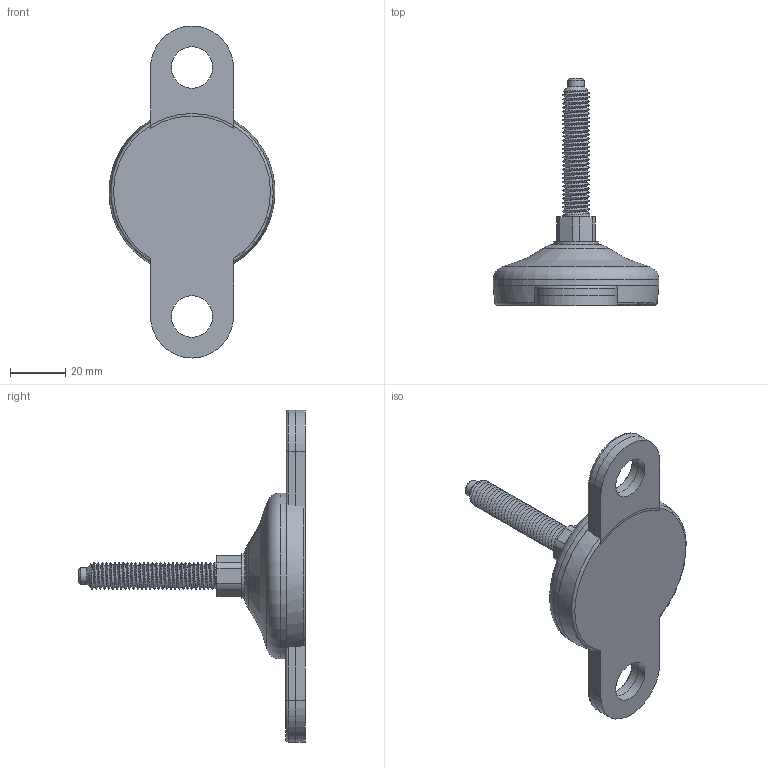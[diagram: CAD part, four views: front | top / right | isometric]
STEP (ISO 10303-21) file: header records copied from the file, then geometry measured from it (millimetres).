
FILE_DESCRIPTION(/* description */ (''),/* implementation_level */ '2;1');
FILE_NAME(/* name */ '\\NAS-MODULA\Backup-nas\Pubblica\DISEGNI 2017\2. LINEA ACCIAIO INOX\ASSIEMI\LINEA VULCANIZZATA\3D\D60\24514-F\24514-F.stp',/* time_stamp */ '2019-01-28T08:01:19+01:00',/* author */ ('Martin'),/* organization */ (''),/* preprocessor_version */ 'ST-DEVELOPER v17',/* originating_system */ 'Autodesk Inventor 2018',/* authorisation */ '');
FILE_SCHEMA (('AUTOMOTIVE_DESIGN { 1 0 10303 214 3 1 1 }'));
Length unit declared in the file: millimetre
Products named in the file (1): None_1
Bounding box: 60 x 82 x 120 mm (x, y, z)
Volume: 60196 mm3; surface area: 25015 mm2
Topology: 7 solids, 7 shells, 70 faces, 157 edges, 102 vertices
Faces by surface type: plane 31, cylinder 26, bspline 5, torus 4, cone 4
Full cylindrical faces by diameter (mm): 6 x1, 15 x4, 16 x1, 60 x1
Entity records: 7544 total; most frequent: CARTESIAN_POINT 5827, DIRECTION 340, ORIENTED_EDGE 314, EDGE_CURVE 157, AXIS2_PLACEMENT_3D 133, VERTEX_POINT 102, EDGE_LOOP 79, STYLED_ITEM 77
